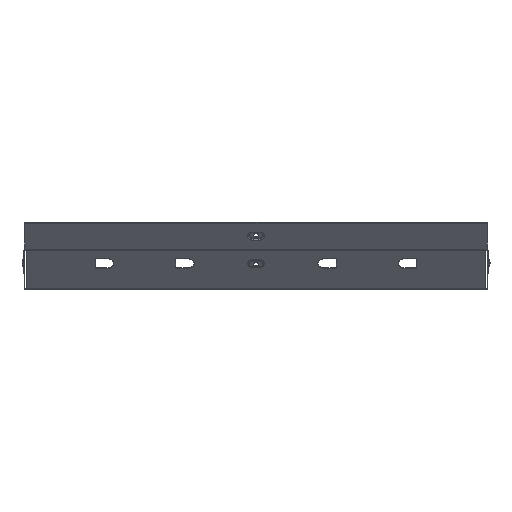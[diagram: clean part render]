
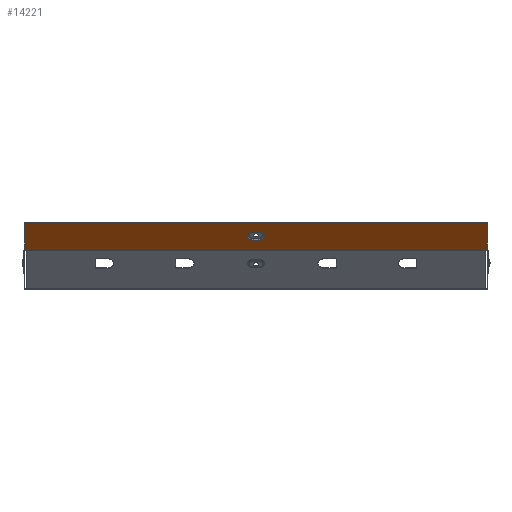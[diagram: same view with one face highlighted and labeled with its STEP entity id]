
A CAD part, top view. The second image highlights one B-rep face of the part: STEP entity #14221.
In plain terms, the highlighted planar face has unit normal (0, -0.707, 0.707).
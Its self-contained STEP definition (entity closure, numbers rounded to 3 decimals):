
#227 = DIRECTION ( 'NONE',  ( 0., -0.707, -0.707 ) ) ;
#705 = LINE ( 'NONE', #12997, #13994 ) ;
#926 = ORIENTED_EDGE ( 'NONE', *, *, #13115, .F. ) ;
#981 = DIRECTION ( 'NONE',  ( 0., 0.707, -0.707 ) ) ;
#1425 = AXIS2_PLACEMENT_3D ( 'NONE', #11069, #981, #3180 ) ;
#1435 = ORIENTED_EDGE ( 'NONE', *, *, #2279, .T. ) ;
#1502 = VERTEX_POINT ( 'NONE', #2196 ) ;
#1612 = CARTESIAN_POINT ( 'NONE',  ( 299., 34.79, 98.421 ) ) ;
#1669 = EDGE_CURVE ( 'NONE', #13753, #1502, #705, .T. ) ;
#1987 = PLANE ( 'NONE',  #1425 ) ;
#2058 = AXIS2_PLACEMENT_3D ( 'NONE', #14249, #8646, #8693 ) ;
#2151 = CARTESIAN_POINT ( 'NONE',  ( 299., -0.273, 63.359 ) ) ;
#2196 = CARTESIAN_POINT ( 'NONE',  ( 3.5, 12.446, 76.078 ) ) ;
#2256 = LINE ( 'NONE', #5461, #12964 ) ;
#2279 = EDGE_CURVE ( 'NONE', #3710, #11157, #2256, .T. ) ;
#3179 = EDGE_LOOP ( 'NONE', ( #12651, #9674, #7723, #926 ) ) ;
#3180 = DIRECTION ( 'NONE',  ( 0., 0.707, 0.707 ) ) ;
#3271 = CARTESIAN_POINT ( 'NONE',  ( -299., 34.79, 98.421 ) ) ;
#3373 = EDGE_CURVE ( 'NONE', #13502, #11355, #5224, .T. ) ;
#3579 = CARTESIAN_POINT ( 'NONE',  ( -3.5, 23.192, 86.823 ) ) ;
#3710 = VERTEX_POINT ( 'NONE', #3271 ) ;
#3756 = LINE ( 'NONE', #4243, #7293 ) ;
#4232 = AXIS2_PLACEMENT_3D ( 'NONE', #4353, #5504, #4412 ) ;
#4243 = CARTESIAN_POINT ( 'NONE',  ( 299., -0.273, 63.359 ) ) ;
#4266 = LINE ( 'NONE', #3579, #10367 ) ;
#4353 = CARTESIAN_POINT ( 'NONE',  ( 3.5, 17.819, 81.45 ) ) ;
#4412 = DIRECTION ( 'NONE',  ( 0., -0.707, -0.707 ) ) ;
#5224 = LINE ( 'NONE', #12345, #13949 ) ;
#5245 = CARTESIAN_POINT ( 'NONE',  ( 3.5, 23.192, 86.823 ) ) ;
#5386 = VERTEX_POINT ( 'NONE', #5245 ) ;
#5461 = CARTESIAN_POINT ( 'NONE',  ( -299., -0.566, 63.066 ) ) ;
#5504 = DIRECTION ( 'NONE',  ( 0., -0.707, 0.707 ) ) ;
#6092 = VERTEX_POINT ( 'NONE', #14032 ) ;
#6616 = DIRECTION ( 'NONE',  ( -1., 0., 0. ) ) ;
#6688 = CARTESIAN_POINT ( 'NONE',  ( -3.5, 12.446, 76.078 ) ) ;
#6774 = ORIENTED_EDGE ( 'NONE', *, *, #3373, .F. ) ;
#7170 = FACE_OUTER_BOUND ( 'NONE', #13331, .T. ) ;
#7293 = VECTOR ( 'NONE', #6616, 1000. ) ;
#7561 = CARTESIAN_POINT ( 'NONE',  ( 299., 34.79, 98.421 ) ) ;
#7723 = ORIENTED_EDGE ( 'NONE', *, *, #9514, .F. ) ;
#7987 = CIRCLE ( 'NONE', #2058, 7.598 ) ;
#8646 = DIRECTION ( 'NONE',  ( 0., -0.707, 0.707 ) ) ;
#8693 = DIRECTION ( 'NONE',  ( 0., -0.707, -0.707 ) ) ;
#9210 = DIRECTION ( 'NONE',  ( -1., 0., 0. ) ) ;
#9504 = EDGE_CURVE ( 'NONE', #11355, #11157, #3756, .T. ) ;
#9514 = EDGE_CURVE ( 'NONE', #6092, #13753, #7987, .T. ) ;
#9657 = ORIENTED_EDGE ( 'NONE', *, *, #10476, .T. ) ;
#9667 = DIRECTION ( 'NONE',  ( 1., 0., 0. ) ) ;
#9674 = ORIENTED_EDGE ( 'NONE', *, *, #1669, .F. ) ;
#10230 = CIRCLE ( 'NONE', #4232, 7.598 ) ;
#10367 = VECTOR ( 'NONE', #9210, 1000. ) ;
#10476 = EDGE_CURVE ( 'NONE', #13502, #3710, #13709, .T. ) ;
#10843 = EDGE_CURVE ( 'NONE', #1502, #5386, #10230, .T. ) ;
#11069 = CARTESIAN_POINT ( 'NONE',  ( 299., -0.566, 63.066 ) ) ;
#11157 = VERTEX_POINT ( 'NONE', #14155 ) ;
#11355 = VERTEX_POINT ( 'NONE', #2151 ) ;
#11629 = VECTOR ( 'NONE', #12762, 1000. ) ;
#12345 = CARTESIAN_POINT ( 'NONE',  ( 299., -0.566, 63.066 ) ) ;
#12651 = ORIENTED_EDGE ( 'NONE', *, *, #10843, .F. ) ;
#12762 = DIRECTION ( 'NONE',  ( -1., 0., 0. ) ) ;
#12964 = VECTOR ( 'NONE', #14375, 1000. ) ;
#12997 = CARTESIAN_POINT ( 'NONE',  ( -3.5, 12.446, 76.078 ) ) ;
#13115 = EDGE_CURVE ( 'NONE', #5386, #6092, #4266, .T. ) ;
#13287 = FACE_BOUND ( 'NONE', #3179, .T. ) ;
#13331 = EDGE_LOOP ( 'NONE', ( #1435, #13370, #6774, #9657 ) ) ;
#13370 = ORIENTED_EDGE ( 'NONE', *, *, #9504, .F. ) ;
#13502 = VERTEX_POINT ( 'NONE', #7561 ) ;
#13709 = LINE ( 'NONE', #1612, #11629 ) ;
#13753 = VERTEX_POINT ( 'NONE', #6688 ) ;
#13949 = VECTOR ( 'NONE', #227, 1000. ) ;
#13994 = VECTOR ( 'NONE', #9667, 1000. ) ;
#14032 = CARTESIAN_POINT ( 'NONE',  ( -3.5, 23.192, 86.823 ) ) ;
#14155 = CARTESIAN_POINT ( 'NONE',  ( -299., -0.273, 63.359 ) ) ;
#14221 = ADVANCED_FACE ( 'NONE', ( #13287, #7170 ), #1987, .F. ) ;
#14249 = CARTESIAN_POINT ( 'NONE',  ( -3.5, 17.819, 81.45 ) ) ;
#14375 = DIRECTION ( 'NONE',  ( 0., -0.707, -0.707 ) ) ;
